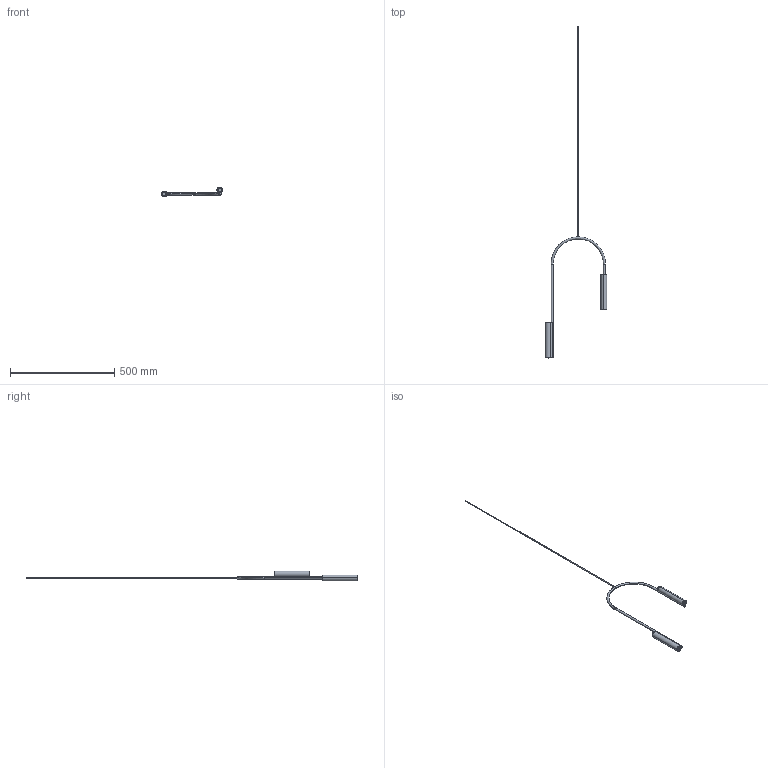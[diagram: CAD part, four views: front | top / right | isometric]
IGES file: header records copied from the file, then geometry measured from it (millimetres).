
Start section: SolidWorks IGES file using analytic representation for surfaces
Global section: file name: C:\Users\Joandita\Dropbox\Rakumba Industrial Design\PRODUCT\2 DEVELOPMENT\POP\CAD\LightWeight CAD\Pop - Pendant A.IGS; native system: SolidWorks 2017; preprocessor: SolidWorks 2017; author: Joandita; date: 240408.160951; units: millimetre
Bounding box: 294.48 x 1589.79 x 46.76 mm (x, y, z)
Surface area: 155171.4 mm2 (no closed solid volume)
Topology: 0 solids, 0 shells, 199 faces, 2947 edges, 2947 vertices
Faces by surface type: bspline 104, revolution 95
